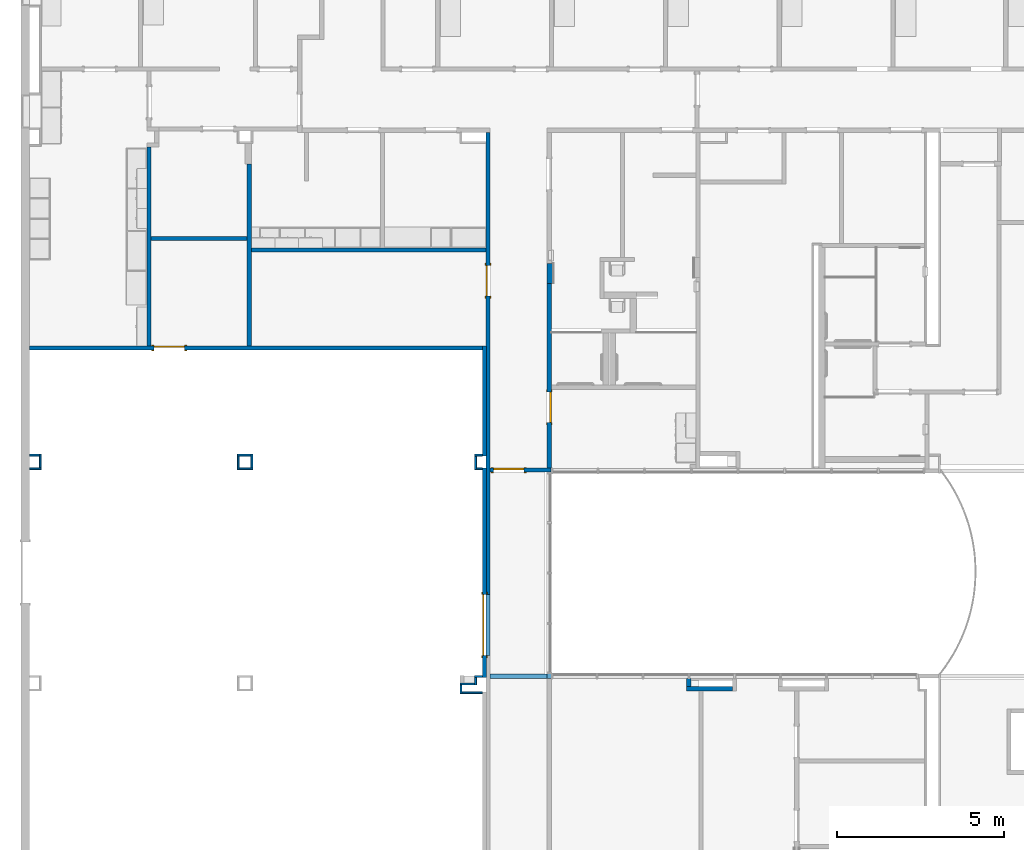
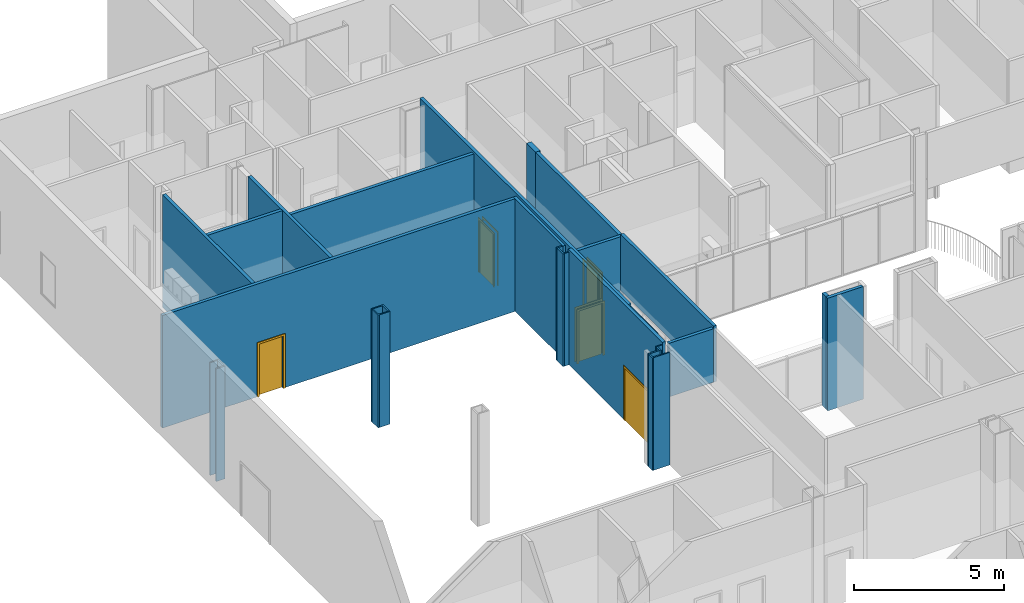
# One storey, part 12 of 47: 31 walls, 5 doors, 6 openings.
"""IFC2X3 building model written with IfcOpenShell, lengths in metres."""

from ifc_helpers import new_model, entity, si_unit, converted_unit, frame, frame_2d, origin, origin_2d_with_axis, place, context, project, spatial, polyline, rectangle, outline, extrude, source, transform, mapped, material, layer, layer_set, layer_usage, type_object, type_shapes, element, fill, save


model = new_model("IFC2X3")

# Units and contexts
model_context = context("Model", 3, precision=1e-09, world=origin())
plan_context = context("Plan", 3, precision=1e-09, world=origin())
ifc_project = project(units=[si_unit("LENGTHUNIT", "METRE"), si_unit("AREAUNIT", "SQUARE_METRE"), si_unit("VOLUMEUNIT", "CUBIC_METRE"), converted_unit("PLANEANGLEUNIT", "DEGREE", entity("IfcRatioMeasure", 0.01745329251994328), si_unit("PLANEANGLEUNIT", "RADIAN"), dimensions=[0, 0, 0, 0, 0, 0, 0]), si_unit("TIMEUNIT", "SECOND")], contexts=[model_context, plan_context])

# Site, building, storey
site_placement = place(None, origin())
site = spatial("IfcSite", under=ifc_project, at=site_placement, Name="Default", CompositionType="ELEMENT")
building_placement = place(site_placement, origin())
building = spatial("IfcBuilding", under=site, at=building_placement, CompositionType="ELEMENT")
storey_placement = place(building_placement, frame((0.0, 0.0, 4.570000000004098)))
storey = spatial("IfcBuildingStorey", under=building, at=storey_placement, Name="Second Floor", CompositionType="ELEMENT", Elevation=4.570000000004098)

# Wall
ifc_material_1 = material(Name="Plasterboard")
ifc_layer_1 = layer(ifc_material_1, 0.016)
ifc_material_2 = material(Name="Metal - Stud Layer")
ifc_layer_2 = layer(ifc_material_2, 0.092)
ifc_layer_3 = layer(ifc_material_1, 0.016)
ifc_layer_set_1 = layer_set([ifc_layer_1, ifc_layer_2, ifc_layer_3], Name="Basic Wall:Interior - Partition (92mm Stud)")
ifc_layer_usage_1 = layer_usage(ifc_layer_set_1, "AXIS2", "NEGATIVE", 0.062)
wall_1_placement = place(storey_placement, frame((-26.05400000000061, 28.24643871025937, 0.0), z_axis=(0.0, 0.0, 1.0), x_axis=(-1.0, 0.0, 0.0)))
element("IfcWallStandardCase", 1, at=wall_1_placement, inside=storey, material=ifc_layer_usage_1, Name="Basic Wall:Interior - Partition (92mm Stud)", ObjectType="Basic Wall:Interior - Partition (92mm Stud)", context=model_context, shape_type="SweptSolid", body=[
    extrude(rectangle(XDim=1.374249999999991, YDim=0.1239999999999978, at=frame_2d((0.6871249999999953, 0.0), x_axis=(-1.0, 0.0))), origin(), (0.0, 0.0, 1.0), 4.577999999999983),
])

# Wall, opening, door
ifc_layer_usage_2 = layer_usage(ifc_layer_set_1, "AXIS2", "NEGATIVE", 0.062)
wall_2_placement = place(storey_placement, frame((-33.4880000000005, 28.59043871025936, 0.0), z_axis=(0.0, 0.0, 1.0), x_axis=(0.0, 1.0, 0.0)))
wall_2 = element("IfcWallStandardCase", 2, at=wall_2_placement, inside=storey, material=ifc_layer_usage_2, Name="Basic Wall:Interior - Partition (92mm Stud)", ObjectType="Basic Wall:Interior - Partition (92mm Stud)", context=model_context, shape_type="SweptSolid", body=[
    extrude(rectangle(XDim=6.277999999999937, YDim=0.1239999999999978, at=frame_2d((3.138999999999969, 0.0), x_axis=(-1.0, 0.0))), origin(), (0.0, 0.0, 1.0), 4.679999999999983),
])
opening_1_placement = place(wall_2_placement, frame((0.6539999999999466, -0.06199999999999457, 0.0)))
opening_1 = element("IfcOpeningElement", 3, at=opening_1_placement, cuts=wall_2, Name="M_Double-Flush:1830 x 2134mm:1830 x 2134mm:1", ObjectType="Opening", context=model_context, shape_type="SweptSolid", body=[
    extrude(rectangle(XDim=2.133999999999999, YDim=1.829999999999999, at=frame_2d((1.067, 0.9149999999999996), x_axis=(1.0, 0.0))), frame((0.0, 0.0, 0.0), z_axis=(0.0, 1.0, 0.0), x_axis=(0.0, 0.0, 1.0)), (0.0, 0.0, 1.0), 0.124),
])
door_style_1 = type_object("IfcDoorStyle", Name="1830 x 2134mm", ConstructionType="NOTDEFINED", OperationType="DOUBLE_DOOR_SINGLE_SWING", ParameterTakesPrecedence=False, Sizeable=False)
shared_shape_1 = source(origin(), model_context, "Body", "SweptSolid", [
    extrude(rectangle(XDim=0.051, YDim=0.9150000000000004, at=origin_2d_with_axis()), frame((1.3725, 0.09849999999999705, 0.0), z_axis=(0.0, 0.0, 1.0), x_axis=(0.0, -1.0, 0.0)), (0.0, 0.0, 1.0), 2.133999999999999),
    extrude(rectangle(XDim=0.05099999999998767, YDim=0.9149999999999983, at=origin_2d_with_axis()), frame((0.4575000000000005, 0.09850000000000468, 0.0), z_axis=(0.0, 0.0, 1.0), x_axis=(0.0, -1.0, 0.0)), (0.0, 0.0, 1.0), 2.134),
    extrude(outline(polyline([(-1.048, 0.9149999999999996), (1.086, 0.9149999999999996), (1.086, 0.9909999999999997), (-1.124, 0.9909999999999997), (-1.124, -0.9909999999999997), (1.086, -0.9909999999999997), (1.086, -0.9149999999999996), (-1.048, -0.9149999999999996), (-1.048, 0.9149999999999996)])), frame((0.9149999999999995, -0.02499999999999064, 1.086), z_axis=(0.0, 1.0, 0.0), x_axis=(0.0, 0.0, -1.0)), (0.0, 0.0, 1.0), 0.02499999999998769),
    extrude(outline(polyline([(-1.048, 0.9149999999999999), (1.086, 0.9149999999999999), (1.086, 0.991), (-1.124, 0.991), (-1.124, -0.991), (1.086, -0.991), (1.086, -0.9149999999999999), (-1.048, -0.9149999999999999), (-1.048, 0.9149999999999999)])), frame((0.9149999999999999, 0.1239999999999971, 1.086), z_axis=(0.0, 1.0, 0.0), x_axis=(0.0, 0.0, -1.0)), (0.0, 0.0, 1.0), 0.02500000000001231),
])
type_shapes(door_style_1, [shared_shape_1])
door_1_placement = place(opening_1_placement, origin())
door_1 = element("IfcDoor", 4, at=door_1_placement, inside=storey, type_object=door_style_1, Name="M_Double-Flush:1830 x 2134mm:1830 x 2134mm", ObjectType="1830 x 2134mm", OverallHeight=2.133999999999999, OverallWidth=1.83, context=model_context, shape_type="MappedRepresentation", body=[
    mapped(shared_shape_1, transform((0.0, 0.0, 0.0), scale=1.0)),
])
fill(opening_1, door_1)

# Wall
ifc_layer_usage_3 = layer_usage(ifc_layer_set_1, "AXIS2", "NEGATIVE", 0.062)
wall_3_placement = place(storey_placement, frame((-33.4880000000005, 35.22043871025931, 0.0), z_axis=(0.0, 0.0, 1.0), x_axis=(0.0, 1.0, 0.0)))
element("IfcWallStandardCase", 5, at=wall_3_placement, inside=storey, material=ifc_layer_usage_3, Name="Basic Wall:Interior - Partition (92mm Stud)", ObjectType="Basic Wall:Interior - Partition (92mm Stud)", context=model_context, shape_type="SweptSolid", body=[
    extrude(rectangle(XDim=3.298, YDim=0.1239999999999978, at=frame_2d((1.649, 0.0), x_axis=(-1.0, 0.0))), origin(), (0.0, 0.0, 1.0), 4.577999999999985),
])

# Wall, opening, door
ifc_layer_usage_4 = layer_usage(ifc_layer_set_1, "AXIS2", "NEGATIVE", 0.062)
wall_4_placement = place(storey_placement, frame((-33.55000000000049, 38.4564387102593, 0.0), z_axis=(0.0, 0.0, 1.0), x_axis=(-1.0, 0.0, 0.0)))
wall_4 = element("IfcWallStandardCase", 6, at=wall_4_placement, inside=storey, material=ifc_layer_usage_4, Name="Basic Wall:Interior - Partition (92mm Stud)", ObjectType="Basic Wall:Interior - Partition (92mm Stud)", context=model_context, shape_type="SweptSolid", body=[
    extrude(rectangle(XDim=13.5630000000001, YDim=0.1239999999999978, at=frame_2d((6.781500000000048, 0.0), x_axis=(-1.0, 0.0))), origin(), (0.0, 0.0, 1.0), 4.577999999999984),
])
opening_2_placement = place(wall_4_placement, frame((9.846000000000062, 0.06199999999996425, 0.0)))
opening_2 = element("IfcOpeningElement", 7, at=opening_2_placement, cuts=wall_4, Name="M_Single-Flush:0915 x 2134mm:0915 x 2134mm:1", ObjectType="Opening", context=model_context, shape_type="SweptSolid", body=[
    extrude(rectangle(XDim=0.9149999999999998, YDim=2.134, at=frame_2d((1.067, 0.4574999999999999), x_axis=(0.0, -1.0))), frame((0.0, 0.0, 0.0), z_axis=(0.0, -1.0, 0.0), x_axis=(0.0, 0.0, 1.0)), (0.0, 0.0, 1.0), 0.124),
])
door_style_2 = type_object("IfcDoorStyle", Name="0915 x 2134mm", ConstructionType="NOTDEFINED", OperationType="SINGLE_SWING_LEFT", ParameterTakesPrecedence=False, Sizeable=False)
shared_shape_2 = source(origin(), model_context, "Body", "SweptSolid", [
    extrude(outline(polyline([(-0.5335, -1.123999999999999), (0.5334999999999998, -1.123999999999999), (0.5334999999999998, 1.086), (0.4574999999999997, 1.086), (0.4574999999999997, -1.048000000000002), (-0.4574999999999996, -1.048000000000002), (-0.4574999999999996, 1.086), (-0.5335, 1.086), (-0.5335, -1.123999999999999)])), frame((0.4575000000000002, 0.1489999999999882, 1.086), z_axis=(0.0, -1.0, 0.0), x_axis=(-1.0, 0.0, 0.0)), (0.0, 0.0, 1.0), 0.02499999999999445),
    extrude(outline(polyline([(-1.123999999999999, -0.5334999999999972), (1.085999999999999, -0.5334999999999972), (1.085999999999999, -0.4575000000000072), (-1.048, -0.4575000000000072), (-1.048, 0.4575000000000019), (1.085999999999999, 0.4575000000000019), (1.085999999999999, 0.5335000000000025), (-1.123999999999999, 0.5335000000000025), (-1.123999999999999, -0.5334999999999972)])), frame((0.4574999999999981, 0.0, 1.085999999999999), z_axis=(0.0, -1.0, 0.0), x_axis=(0.0, 0.0, -1.0)), (0.0, 0.0, 1.0), 0.02500000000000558),
    extrude(rectangle(XDim=0.9149999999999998, YDim=0.051, at=origin_2d_with_axis()), frame((0.4575000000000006, 0.09849999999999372, 0.0)), (0.0, 0.0, 1.0), 2.133999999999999),
])
type_shapes(door_style_2, [shared_shape_2])
door_2_placement = place(opening_2_placement, frame((0.0, 0.0, 0.0), z_axis=(0.0, 0.0, 1.0), x_axis=(-1.0, 0.0, 0.0)))
door_2 = element("IfcDoor", 8, at=door_2_placement, inside=storey, type_object=door_style_2, Name="M_Single-Flush:0915 x 2134mm:0915 x 2134mm", ObjectType="0915 x 2134mm", OverallHeight=2.134, OverallWidth=0.9149999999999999, context=model_context, shape_type="MappedRepresentation", body=[
    mapped(shared_shape_2, transform((0.0, 0.0, 0.0), scale=1.0)),
])
fill(opening_2, door_2)

ifc_layer_usage_5 = layer_usage(ifc_layer_set_1, "AXIS2", "NEGATIVE", 0.062)
wall_5_placement = place(storey_placement, frame((-33.3820000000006, 44.92043871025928, 0.0), z_axis=(0.0, 0.0, 1.0), x_axis=(0.0, -1.0, 0.0)))
wall_5 = element("IfcWallStandardCase", 9, at=wall_5_placement, inside=storey, material=ifc_layer_usage_5, Name="Basic Wall:Interior - Partition (92mm Stud)", ObjectType="Basic Wall:Interior - Partition (92mm Stud)", context=model_context, shape_type="SweptSolid", body=[
    extrude(rectangle(XDim=13.84656437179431, YDim=0.1239999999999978, at=frame_2d((6.923282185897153, 0.0), x_axis=(-1.0, 0.0))), origin(), (0.0, 0.0, 1.0), 4.679999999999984),
])
opening_3_placement = place(wall_5_placement, frame((4.900999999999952, 0.06199999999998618, 0.0)))
opening_3 = element("IfcOpeningElement", 10, at=opening_3_placement, cuts=wall_5, Name="M_Single-Flush:0915 x 2134mm:0915 x 2134mm:1", ObjectType="Opening", context=model_context, shape_type="SweptSolid", body=[
    extrude(rectangle(XDim=0.9149999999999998, YDim=2.134, at=frame_2d((1.067, 0.4575), x_axis=(0.0, 1.0))), frame((0.0, 0.0, 0.0), z_axis=(0.0, -1.0, 0.0), x_axis=(0.0, 0.0, 1.0)), (0.0, 0.0, 1.0), 0.124),
])
door_style_3 = type_object("IfcDoorStyle", Name="0915 x 2134mm", ConstructionType="NOTDEFINED", OperationType="SINGLE_SWING_RIGHT", ParameterTakesPrecedence=False, Sizeable=False)
shared_shape_3 = source(origin(), model_context, "Body", "SweptSolid", [
    extrude(outline(polyline([(-0.5335, -1.123999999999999), (0.5334999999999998, -1.123999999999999), (0.5334999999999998, 1.086), (0.4574999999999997, 1.086), (0.4574999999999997, -1.048000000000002), (-0.4574999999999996, -1.048000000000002), (-0.4574999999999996, 1.086), (-0.5335, 1.086), (-0.5335, -1.123999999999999)])), frame((0.4575000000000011, 0.1239999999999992, 1.086), z_axis=(0.0, 1.0, 0.0), x_axis=(1.0, 0.0, 0.0)), (0.0, 0.0, 1.0), 0.02499999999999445),
    extrude(outline(polyline([(-1.123999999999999, -0.5334999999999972), (1.085999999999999, -0.5334999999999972), (1.085999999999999, -0.4575000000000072), (-1.048, -0.4575000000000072), (-1.048, 0.4575000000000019), (1.085999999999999, 0.4575000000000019), (1.085999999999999, 0.5335000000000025), (-1.123999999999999, 0.5335000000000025), (-1.123999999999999, -0.5334999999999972)])), frame((0.4575000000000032, -0.02500000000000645, 1.085999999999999), z_axis=(0.0, 1.0, 0.0), x_axis=(0.0, 0.0, -1.0)), (0.0, 0.0, 1.0), 0.02500000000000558),
    extrude(rectangle(XDim=0.051, YDim=0.9149999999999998, at=origin_2d_with_axis()), frame((0.4575000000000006, 0.09849999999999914, 0.0), z_axis=(0.0, 0.0, 1.0), x_axis=(0.0, 1.0, 0.0)), (0.0, 0.0, 1.0), 2.133999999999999),
])
type_shapes(door_style_3, [shared_shape_3])
door_3_placement = place(opening_3_placement, frame((0.0, 0.0, 0.0), z_axis=(0.0, 0.0, 1.0), x_axis=(-1.0, 0.0, 0.0)))
door_3 = element("IfcDoor", 11, at=door_3_placement, inside=storey, type_object=door_style_3, Name="M_Single-Flush:0915 x 2134mm:0915 x 2134mm", ObjectType="0915 x 2134mm", OverallHeight=2.134, OverallWidth=0.9149999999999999, context=model_context, shape_type="MappedRepresentation", body=[
    mapped(shared_shape_3, transform((0.0, 0.0, 0.0), scale=1.0)),
])
fill(opening_3, door_3)

# Wall, openings, door
ifc_layer_usage_6 = layer_usage(ifc_layer_set_1, "AXIS2", "NEGATIVE", 0.062)
wall_6_placement = place(storey_placement, frame((-31.48600000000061, 34.79636288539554, 0.0), z_axis=(0.0, 0.0, 1.0), x_axis=(-1.0, 0.0, 0.0)))
wall_6 = element("IfcWallStandardCase", 12, at=wall_6_placement, inside=storey, material=ifc_layer_usage_6, Name="Basic Wall:Interior - Partition (92mm Stud)", ObjectType="Basic Wall:Interior - Partition (92mm Stud)", context=model_context, shape_type="SweptSolid", body=[
    extrude(rectangle(XDim=1.834000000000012, YDim=0.1239999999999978, at=frame_2d((0.9170000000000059, 0.0), x_axis=(-1.0, 0.0))), origin(), (0.0, 0.0, 1.0), 4.577999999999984),
])
opening_4_placement = place(wall_6_placement, origin())
element("IfcOpeningElement", 13, at=opening_4_placement, cuts=wall_6, ObjectType="Opening", context=model_context, shape_type="SweptSolid", body=[
    extrude(rectangle(XDim=2.4, YDim=11.19900000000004, at=origin_2d_with_axis()), frame((-5.596500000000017, -0.2143999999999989, 1.199999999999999), z_axis=(0.0, 1.0, 0.0), x_axis=(0.0, 0.0, 1.0)), (0.0, 0.0, 1.0), 0.4288000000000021),
])
opening_5_placement = place(wall_6_placement, frame((1.734000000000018, 0.06199999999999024, 0.0)))
opening_5 = element("IfcOpeningElement", 14, at=opening_5_placement, cuts=wall_6, Name="M_Single-Flush:0915 x 2134mm:0915 x 2134mm:1", ObjectType="Opening", context=model_context, shape_type="SweptSolid", body=[
    extrude(rectangle(XDim=0.9149999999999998, YDim=2.134, at=frame_2d((1.067, 0.4575000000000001), x_axis=(0.0, -1.0))), frame((0.0, 0.0, 0.0), z_axis=(0.0, -1.0, 0.0), x_axis=(0.0, 0.0, 1.0)), (0.0, 0.0, 1.0), 0.124),
])
door_4_placement = place(opening_5_placement, frame((0.0, 0.0, 0.0), z_axis=(0.0, 0.0, 1.0), x_axis=(-1.0, 0.0, 0.0)))
door_4 = element("IfcDoor", 15, at=door_4_placement, inside=storey, type_object=door_style_2, Name="M_Single-Flush:0915 x 2134mm:0915 x 2134mm", ObjectType="0915 x 2134mm", OverallHeight=2.134, OverallWidth=0.9149999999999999, context=model_context, shape_type="MappedRepresentation", body=[
    mapped(shared_shape_2, transform((0.0, 0.0, 0.0), scale=1.0)),
])
fill(opening_5, door_4)

# Walls
ifc_layer_usage_7 = layer_usage(ifc_layer_set_1, "AXIS2", "NEGATIVE", 0.062)
wall_7_placement = place(storey_placement, frame((-43.53800000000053, 38.51843871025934, 0.0), z_axis=(0.0, 0.0, 1.0), x_axis=(0.0, 1.0, 0.0)))
element("IfcWallStandardCase", 16, at=wall_7_placement, inside=storey, material=ifc_layer_usage_7, Name="Basic Wall:Interior - Partition (92mm Stud)", ObjectType="Basic Wall:Interior - Partition (92mm Stud)", context=model_context, shape_type="SweptSolid", body=[
    extrude(rectangle(XDim=5.961999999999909, YDim=0.1240000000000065, at=frame_2d((2.980999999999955, 0.0), x_axis=(-1.0, 0.0))), origin(), (0.0, 0.0, 1.0), 4.577999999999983),
])
ifc_layer_usage_8 = layer_usage(ifc_layer_set_1, "AXIS2", "NEGATIVE", 0.062)
wall_8_placement = place(storey_placement, frame((-40.53800000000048, 38.51843871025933, 0.0), z_axis=(0.0, 0.0, 1.0), x_axis=(0.0, 1.0, 0.0)))
element("IfcWallStandardCase", 17, at=wall_8_placement, inside=storey, material=ifc_layer_usage_8, Name="Basic Wall:Interior - Partition (92mm Stud)", ObjectType="Basic Wall:Interior - Partition (92mm Stud)", context=model_context, shape_type="SweptSolid", body=[
    extrude(rectangle(XDim=5.447999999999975, YDim=0.1240000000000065, at=frame_2d((2.723999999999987, 0.0), x_axis=(-1.0, 0.0))), origin(), (0.0, 0.0, 1.0), 4.577999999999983),
])
ifc_layer_usage_9 = layer_usage(ifc_layer_set_1, "AXIS2", "NEGATIVE", 0.062)
wall_9_placement = place(storey_placement, frame((-40.60000000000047, 41.73643871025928, 0.0), z_axis=(0.0, 0.0, 1.0), x_axis=(-1.0, 0.0, 0.0)))
element("IfcWallStandardCase", 18, at=wall_9_placement, inside=storey, material=ifc_layer_usage_9, Name="Basic Wall:Interior - Partition (92mm Stud)", ObjectType="Basic Wall:Interior - Partition (92mm Stud)", context=model_context, shape_type="SweptSolid", body=[
    extrude(rectangle(XDim=2.876000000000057, YDim=0.1240000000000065, at=frame_2d((1.438000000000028, 0.0), x_axis=(-1.0, 0.0))), origin(), (0.0, 0.0, 1.0), 4.577999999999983),
])
ifc_layer_usage_10 = layer_usage(ifc_layer_set_1, "AXIS2", "NEGATIVE", 0.062)
wall_10_placement = place(storey_placement, frame((-33.44400000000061, 41.39643871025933, 0.0), z_axis=(0.0, 0.0, 1.0), x_axis=(-1.0, 0.0, 0.0)))
element("IfcWallStandardCase", 19, at=wall_10_placement, inside=storey, material=ifc_layer_usage_10, Name="Basic Wall:Interior - Partition (92mm Stud)", ObjectType="Basic Wall:Interior - Partition (92mm Stud)", context=model_context, shape_type="SweptSolid", body=[
    extrude(rectangle(XDim=7.031999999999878, YDim=0.1240000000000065, at=frame_2d((3.515999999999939, 0.0), x_axis=(-1.0, 0.0))), origin(), (0.0, 0.0, 1.0), 4.577999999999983),
])

# Wall, opening, door
ifc_layer_usage_11 = layer_usage(ifc_layer_set_1, "AXIS2", "NEGATIVE", 0.062)
wall_11_placement = place(storey_placement, frame((-31.54800000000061, 34.85836288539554, 0.0), z_axis=(0.0, 0.0, 1.0), x_axis=(0.0, 1.0, 0.0)))
wall_11 = element("IfcWallStandardCase", 20, at=wall_11_placement, inside=storey, material=ifc_layer_usage_11, Name="Basic Wall:Interior - Partition (92mm Stud)", ObjectType="Basic Wall:Interior - Partition (92mm Stud)", context=model_context, shape_type="SweptSolid", body=[
    extrude(rectangle(XDim=5.53701631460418, YDim=0.1239999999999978, at=frame_2d((2.76850815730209, 0.0), x_axis=(-1.0, 0.0))), origin(), (0.0, 0.0, 1.0), 4.577999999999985),
])
opening_6_placement = place(wall_11_placement, frame((2.282075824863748, 0.0619999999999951, 0.0)))
opening_6 = element("IfcOpeningElement", 21, at=opening_6_placement, cuts=wall_11, Name="M_Single-Flush:0915 x 2134mm:0915 x 2134mm:1", ObjectType="Opening", context=model_context, shape_type="SweptSolid", body=[
    extrude(rectangle(XDim=0.9149999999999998, YDim=2.134, at=frame_2d((1.067, 0.4575000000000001), x_axis=(0.0, -1.0))), frame((0.0, 0.0, 0.0), z_axis=(0.0, -1.0, 0.0), x_axis=(0.0, 0.0, 1.0)), (0.0, 0.0, 1.0), 0.124),
])
door_5_placement = place(opening_6_placement, frame((0.0, 0.0, 0.0), z_axis=(0.0, 0.0, 1.0), x_axis=(-1.0, 0.0, 0.0)))
door_5 = element("IfcDoor", 22, at=door_5_placement, inside=storey, type_object=door_style_2, Name="M_Single-Flush:0915 x 2134mm:0915 x 2134mm", ObjectType="0915 x 2134mm", OverallHeight=2.134, OverallWidth=0.9149999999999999, context=model_context, shape_type="MappedRepresentation", body=[
    mapped(shared_shape_2, transform((0.0, 0.0, 0.0), scale=1.0)),
])
fill(opening_6, door_5)

# Walls
ifc_layer_usage_12 = layer_usage(ifc_layer_set_1, "AXIS2", "NEGATIVE", 0.062)
wall_12_placement = place(storey_placement, frame((-33.3200000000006, 28.62043871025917, 2.399999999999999)))
element("IfcWallStandardCase", 23, at=wall_12_placement, inside=storey, material=ifc_layer_usage_12, Name="Basic Wall:Interior - Partition (92mm Stud)", ObjectType="Basic Wall:Interior - Partition (92mm Stud)", context=model_context, shape_type="SweptSolid", body=[
    extrude(rectangle(XDim=1.709999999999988, YDim=0.1239999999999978, at=frame_2d((0.854999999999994, 0.0), x_axis=(-1.0, 0.0))), origin(), (0.0, 0.0, 1.0), 2.177999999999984),
])
ifc_layer_usage_13 = layer_usage(ifc_layer_set_1, "AXIS2", "NEGATIVE", 0.062)
wall_13_placement = place(storey_placement, frame((-33.38200000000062, 31.07387433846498, 2.399999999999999), z_axis=(0.0, 0.0, 1.0), x_axis=(0.0, -1.0, 0.0)))
element("IfcWallStandardCase", 24, at=wall_13_placement, inside=storey, material=ifc_layer_usage_13, Name="Basic Wall:Interior - Partition (92mm Stud)", ObjectType="Basic Wall:Interior - Partition (92mm Stud)", context=model_context, shape_type="SweptSolid", body=[
    extrude(rectangle(XDim=1.83, YDim=0.1239999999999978, at=frame_2d((0.9149999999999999, 0.0), x_axis=(-1.0, 0.0))), origin(), (0.0, 0.0, 1.0), 2.177999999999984),
])
ifc_layer_usage_14 = layer_usage(ifc_layer_set_1, "AXIS2", "NEGATIVE", 0.062)
wall_14_placement = place(storey_placement, frame((-31.5480000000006, 34.83380159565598, 2.399999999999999), z_axis=(0.0, 0.0, 1.0), x_axis=(0.0, -1.0, 0.0)))
element("IfcWallStandardCase", 25, at=wall_14_placement, inside=storey, material=ifc_layer_usage_14, Name="Basic Wall:Interior - Partition (92mm Stud)", ObjectType="Basic Wall:Interior - Partition (92mm Stud)", context=model_context, shape_type="SweptSolid", body=[
    extrude(rectangle(XDim=6.175924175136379, YDim=0.1240000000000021, at=frame_2d((3.187400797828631, 0.0), x_axis=(-1.0, 0.0))), origin(), (0.0, 0.0, 1.0), 2.279999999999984),
])
ifc_layer_usage_15 = layer_usage(ifc_layer_set_1, "AXIS2", "NEGATIVE", 0.062)
wall_15_placement = place(storey_placement, frame((-27.3662500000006, 28.30843871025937, 0.0), z_axis=(0.0, 0.0, 1.0), x_axis=(0.0, 1.0, 0.0)))
element("IfcWallStandardCase", 26, at=wall_15_placement, inside=storey, material=ifc_layer_usage_15, Name="Basic Wall:Interior - Partition (92mm Stud)", ObjectType="Basic Wall:Interior - Partition (92mm Stud)", context=model_context, shape_type="SweptSolid", body=[
    extrude(rectangle(XDim=0.2447596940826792, YDim=0.1239999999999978, at=frame_2d((0.1223798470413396, 0.0), x_axis=(-1.0, 0.0))), origin(), (0.0, 0.0, 1.0), 4.577999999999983),
])
ifc_layer_4 = layer(ifc_material_2, 0.038)
ifc_layer_5 = layer(ifc_material_1, 0.016)
ifc_layer_set_2 = layer_set([ifc_layer_4, ifc_layer_5], Name="Basic Wall:Interior - Furring (38 mm Stud)")
ifc_layer_usage_16 = layer_usage(ifc_layer_set_2, "AXIS2", "NEGATIVE", 0.027)
wall_16_placement = place(storey_placement, frame((-33.5500000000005, 28.61743871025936, 0.0), z_axis=(0.0, 0.0, 1.0), x_axis=(-1.0, 0.0, 0.0)))
element("IfcWallStandardCase", 27, at=wall_16_placement, inside=storey, material=ifc_layer_usage_16, Name="Basic Wall:Interior - Furring (38 mm Stud)", ObjectType="Basic Wall:Interior - Furring (38 mm Stud)", context=model_context, shape_type="SweptSolid", body=[
    extrude(rectangle(XDim=0.230000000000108, YDim=0.05399999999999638, at=frame_2d((0.115000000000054, 0.0), x_axis=(-1.0, 0.0))), origin(), (0.0, 0.0, 1.0), 4.577999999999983),
])
ifc_layer_usage_17 = layer_usage(ifc_layer_set_2, "AXIS2", "NEGATIVE", 0.027)
wall_17_placement = place(storey_placement, frame((-33.75300000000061, 28.59043871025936, 0.0), z_axis=(0.0, 0.0, 1.0), x_axis=(0.0, -1.0, 0.0)))
element("IfcWallStandardCase", 28, at=wall_17_placement, inside=storey, material=ifc_layer_usage_17, Name="Basic Wall:Interior - Furring (38 mm Stud)", ObjectType="Basic Wall:Interior - Furring (38 mm Stud)", context=model_context, shape_type="SweptSolid", body=[
    extrude(rectangle(XDim=0.2300000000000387, YDim=0.05399999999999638, at=frame_2d((0.1150000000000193, 0.0), x_axis=(-1.0, 0.0))), origin(), (0.0, 0.0, 1.0), 4.577999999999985),
])
ifc_layer_usage_18 = layer_usage(ifc_layer_set_2, "AXIS2", "NEGATIVE", 0.027)
wall_18_placement = place(storey_placement, frame((-33.78000000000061, 28.38743871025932, 0.0), z_axis=(0.0, 0.0, 1.0), x_axis=(-1.0, 0.0, 0.0)))
element("IfcWallStandardCase", 29, at=wall_18_placement, inside=storey, material=ifc_layer_usage_18, Name="Basic Wall:Interior - Furring (38 mm Stud)", ObjectType="Basic Wall:Interior - Furring (38 mm Stud)", context=model_context, shape_type="SweptSolid", body=[
    extrude(rectangle(XDim=0.4400000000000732, YDim=0.05399999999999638, at=frame_2d((0.2200000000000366, 0.0), x_axis=(-1.0, 0.0))), origin(), (0.0, 0.0, 1.0), 4.577999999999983),
])
ifc_layer_usage_19 = layer_usage(ifc_layer_set_2, "AXIS2", "NEGATIVE", 0.027)
wall_19_placement = place(storey_placement, frame((-34.19300000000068, 28.36043871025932, 0.0), z_axis=(0.0, 0.0, 1.0), x_axis=(0.0, -1.0, 0.0)))
element("IfcWallStandardCase", 30, at=wall_19_placement, inside=storey, material=ifc_layer_usage_19, Name="Basic Wall:Interior - Furring (38 mm Stud)", ObjectType="Basic Wall:Interior - Furring (38 mm Stud)", context=model_context, shape_type="SweptSolid", body=[
    extrude(rectangle(XDim=0.2609999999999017, YDim=0.05399999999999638, at=frame_2d((0.1304999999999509, 0.0), x_axis=(-1.0, 0.0))), origin(), (0.0, 0.0, 1.0), 4.577999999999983),
])
ifc_layer_usage_20 = layer_usage(ifc_layer_set_2, "AXIS2", "NEGATIVE", 0.027)
wall_20_placement = place(storey_placement, frame((-34.16600000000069, 28.12643871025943, 0.0)))
element("IfcWallStandardCase", 31, at=wall_20_placement, inside=storey, material=ifc_layer_usage_20, Name="Basic Wall:Interior - Furring (38 mm Stud)", ObjectType="Basic Wall:Interior - Furring (38 mm Stud)", context=model_context, shape_type="SweptSolid", body=[
    extrude(rectangle(XDim=0.6160000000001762, YDim=0.05399999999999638, at=frame_2d((0.3080000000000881, 0.0), x_axis=(-1.0, 0.0))), origin(), (0.0, 0.0, 1.0), 4.577999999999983),
])
ifc_layer_usage_21 = layer_usage(ifc_layer_set_2, "AXIS2", "POSITIVE", -0.027)
wall_21_placement = place(storey_placement, frame((-40.8900000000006, 35.2474387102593, 0.0)))
element("IfcWallStandardCase", 32, at=wall_21_placement, inside=storey, material=ifc_layer_usage_21, Name="Basic Wall:Interior - Furring (38 mm Stud)", ObjectType="Basic Wall:Interior - Furring (38 mm Stud)", context=model_context, shape_type="SweptSolid", body=[
    extrude(rectangle(XDim=0.4060000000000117, YDim=0.05399999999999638, at=frame_2d((0.2030000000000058, 0.0), x_axis=(-1.0, 0.0))), origin(), (0.0, 0.0, 1.0), 4.577999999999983),
])
ifc_layer_usage_22 = layer_usage(ifc_layer_set_2, "AXIS2", "POSITIVE", -0.027)
wall_22_placement = place(storey_placement, frame((-40.8630000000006, 34.81443871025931, 0.0), z_axis=(0.0, 0.0, 1.0), x_axis=(0.0, 1.0, 0.0)))
element("IfcWallStandardCase", 33, at=wall_22_placement, inside=storey, material=ifc_layer_usage_22, Name="Basic Wall:Interior - Furring (38 mm Stud)", ObjectType="Basic Wall:Interior - Furring (38 mm Stud)", context=model_context, shape_type="SweptSolid", body=[
    extrude(rectangle(XDim=0.4059999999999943, YDim=0.05400000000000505, at=frame_2d((0.2029999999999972, 0.0), x_axis=(-1.0, 0.0))), origin(), (0.0, 0.0, 1.0), 4.577999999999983),
])
ifc_layer_usage_23 = layer_usage(ifc_layer_set_2, "AXIS2", "POSITIVE", -0.027)
wall_23_placement = place(storey_placement, frame((-40.4300000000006, 34.8414387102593, 0.0), z_axis=(0.0, 0.0, 1.0), x_axis=(-1.0, 0.0, 0.0)))
element("IfcWallStandardCase", 34, at=wall_23_placement, inside=storey, material=ifc_layer_usage_23, Name="Basic Wall:Interior - Furring (38 mm Stud)", ObjectType="Basic Wall:Interior - Furring (38 mm Stud)", context=model_context, shape_type="SweptSolid", body=[
    extrude(rectangle(XDim=0.406000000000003, YDim=0.05399999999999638, at=frame_2d((0.2030000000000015, 0.0), x_axis=(-1.0, 0.0))), origin(), (0.0, 0.0, 1.0), 4.577999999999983),
])
ifc_layer_usage_24 = layer_usage(ifc_layer_set_2, "AXIS2", "POSITIVE", -0.027)
wall_24_placement = place(storey_placement, frame((-40.45700000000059, 35.2744387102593, 0.0), z_axis=(0.0, 0.0, 1.0), x_axis=(0.0, -1.0, 0.0)))
element("IfcWallStandardCase", 35, at=wall_24_placement, inside=storey, material=ifc_layer_usage_24, Name="Basic Wall:Interior - Furring (38 mm Stud)", ObjectType="Basic Wall:Interior - Furring (38 mm Stud)", context=model_context, shape_type="SweptSolid", body=[
    extrude(rectangle(XDim=0.4059999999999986, YDim=0.05400000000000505, at=frame_2d((0.2029999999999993, 0.0), x_axis=(-1.0, 0.0))), origin(), (0.0, 0.0, 1.0), 4.577999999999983),
])
ifc_layer_usage_25 = layer_usage(ifc_layer_set_2, "AXIS2", "NEGATIVE", 0.027)
wall_25_placement = place(storey_placement, frame((-33.5500000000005, 35.2474387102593, 0.0), z_axis=(0.0, 0.0, 1.0), x_axis=(-1.0, 0.0, 0.0)))
element("IfcWallStandardCase", 36, at=wall_25_placement, inside=storey, material=ifc_layer_usage_25, Name="Basic Wall:Interior - Furring (38 mm Stud)", ObjectType="Basic Wall:Interior - Furring (38 mm Stud)", context=model_context, shape_type="SweptSolid", body=[
    extrude(rectangle(XDim=0.230000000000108, YDim=0.05399999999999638, at=frame_2d((0.115000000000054, 0.0), x_axis=(-1.0, 0.0))), origin(), (0.0, 0.0, 1.0), 4.577999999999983),
])
ifc_layer_usage_26 = layer_usage(ifc_layer_set_2, "AXIS2", "NEGATIVE", 0.027)
wall_26_placement = place(storey_placement, frame((-33.7530000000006, 35.22043871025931, 0.0), z_axis=(0.0, 0.0, 1.0), x_axis=(0.0, -1.0, 0.0)))
element("IfcWallStandardCase", 37, at=wall_26_placement, inside=storey, material=ifc_layer_usage_26, Name="Basic Wall:Interior - Furring (38 mm Stud)", ObjectType="Basic Wall:Interior - Furring (38 mm Stud)", context=model_context, shape_type="SweptSolid", body=[
    extrude(rectangle(XDim=0.4060000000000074, YDim=0.05399999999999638, at=frame_2d((0.2030000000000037, 0.0), x_axis=(-1.0, 0.0))), origin(), (0.0, 0.0, 1.0), 4.577999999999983),
])
ifc_layer_usage_27 = layer_usage(ifc_layer_set_2, "AXIS2", "NEGATIVE", 0.027)
wall_27_placement = place(storey_placement, frame((-33.7260000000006, 34.8414387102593, 0.0)))
element("IfcWallStandardCase", 38, at=wall_27_placement, inside=storey, material=ifc_layer_usage_27, Name="Basic Wall:Interior - Furring (38 mm Stud)", ObjectType="Basic Wall:Interior - Furring (38 mm Stud)", context=model_context, shape_type="SweptSolid", body=[
    extrude(rectangle(XDim=0.1760000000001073, YDim=0.05399999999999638, at=frame_2d((0.08800000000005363, 0.0), x_axis=(-1.0, 0.0))), origin(), (0.0, 0.0, 1.0), 4.577999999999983),
])
ifc_layer_usage_28 = layer_usage(ifc_layer_set_2, "AXIS2", "NEGATIVE", 0.027)
wall_28_placement = place(storey_placement, frame((-47.1130000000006, 34.8414387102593, 0.0)))
element("IfcWallStandardCase", 39, at=wall_28_placement, inside=storey, material=ifc_layer_usage_28, Name="Basic Wall:Interior - Furring (38 mm Stud)", ObjectType="Basic Wall:Interior - Furring (38 mm Stud)", context=model_context, shape_type="SweptSolid", body=[
    extrude(rectangle(XDim=0.3430000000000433, YDim=0.05399999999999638, at=frame_2d((0.1715000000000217, 0.0), x_axis=(-1.0, 0.0))), origin(), (0.0, 0.0, 1.0), 4.577999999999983),
])
ifc_layer_usage_29 = layer_usage(ifc_layer_set_2, "AXIS2", "NEGATIVE", 0.027)
wall_29_placement = place(storey_placement, frame((-46.79700000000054, 34.8684387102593, 0.0), z_axis=(0.0, 0.0, 1.0), x_axis=(0.0, 1.0, 0.0)))
element("IfcWallStandardCase", 40, at=wall_29_placement, inside=storey, material=ifc_layer_usage_29, Name="Basic Wall:Interior - Furring (38 mm Stud)", ObjectType="Basic Wall:Interior - Furring (38 mm Stud)", context=model_context, shape_type="SweptSolid", body=[
    extrude(rectangle(XDim=0.4060000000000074, YDim=0.05400000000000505, at=frame_2d((0.2030000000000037, 0.0), x_axis=(-1.0, 0.0))), origin(), (0.0, 0.0, 1.0), 4.577999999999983),
])
ifc_layer_usage_30 = layer_usage(ifc_layer_set_2, "AXIS2", "NEGATIVE", 0.027)
wall_30_placement = place(storey_placement, frame((-46.82400000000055, 35.2474387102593, 0.0), z_axis=(0.0, 0.0, 1.0), x_axis=(-1.0, 0.0, 0.0)))
element("IfcWallStandardCase", 41, at=wall_30_placement, inside=storey, material=ifc_layer_usage_30, Name="Basic Wall:Interior - Furring (38 mm Stud)", ObjectType="Basic Wall:Interior - Furring (38 mm Stud)", context=model_context, shape_type="SweptSolid", body=[
    extrude(rectangle(XDim=0.2890000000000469, YDim=0.05399999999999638, at=frame_2d((0.1445000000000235, 0.0), x_axis=(-1.0, 0.0))), origin(), (0.0, 0.0, 1.0), 4.577999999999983),
])
ifc_layer_6 = layer(ifc_material_1, 0.016)
ifc_layer_7 = layer(ifc_material_2, 0.152)
ifc_layer_8 = layer(ifc_material_1, 0.016)
ifc_layer_set_3 = layer_set([ifc_layer_6, ifc_layer_7, ifc_layer_8], Name="Basic Wall:Interior - Plumbing (152mm Stud)")
ifc_layer_usage_31 = layer_usage(ifc_layer_set_3, "AXIS2", "NEGATIVE", 0.092)
wall_31_placement = place(storey_placement, frame((-31.5180000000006, 40.39537919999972, 0.0), z_axis=(0.0, 0.0, 1.0), x_axis=(0.0, 1.0, 0.0)))
element("IfcWallStandardCase", 42, at=wall_31_placement, inside=storey, material=ifc_layer_usage_31, Name="Basic Wall:Interior - Plumbing (152mm Stud)", ObjectType="Basic Wall:Interior - Plumbing (152mm Stud)", context=model_context, shape_type="SweptSolid", body=[
    extrude(rectangle(XDim=0.6000000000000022, YDim=0.1840000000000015, at=frame_2d((0.3000000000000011, 0.0), x_axis=(-1.0, 0.0))), origin(), (0.0, 0.0, 1.0), 4.577999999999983),
])

save(model, "model.ifc")
